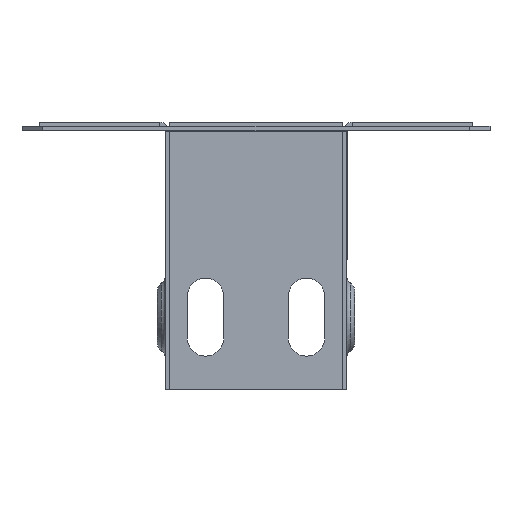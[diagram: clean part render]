
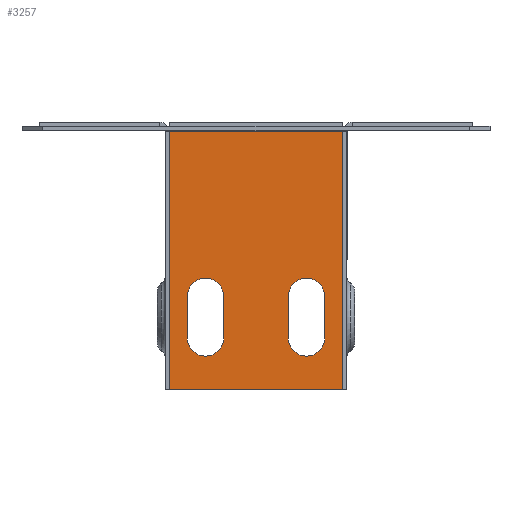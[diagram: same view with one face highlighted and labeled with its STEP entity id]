
A CAD part, left-side view. The second image highlights one B-rep face of the part: STEP entity #3257.
In plain terms, the highlighted planar face has unit normal (-1, 0, 0) as drawn and (0, 1, 0) by its records, which use the part's own axes.
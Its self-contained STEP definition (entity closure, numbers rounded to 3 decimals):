
#147 = CARTESIAN_POINT ( 'NONE',  ( -9.7, 0.8, 41.5 ) ) ;
#194 = VERTEX_POINT ( 'NONE', #2680 ) ;
#339 = CARTESIAN_POINT ( 'NONE',  ( -6.2, 0.8, 41.5 ) ) ;
#392 = CARTESIAN_POINT ( 'NONE',  ( 9.7, 0.8, 45. ) ) ;
#405 = CARTESIAN_POINT ( 'NONE',  ( 16.7, 0.8, 51.5 ) ) ;
#434 = CIRCLE ( 'NONE', #1441, 3.5 ) ;
#512 = CIRCLE ( 'NONE', #1947, 3.5 ) ;
#526 = AXIS2_PLACEMENT_3D ( 'NONE', #3156, #3151, #3136 ) ;
#587 = EDGE_CURVE ( 'NONE', #3053, #1609, #2117, .T. ) ;
#646 = DIRECTION ( 'NONE',  ( -1., 0., 0. ) ) ;
#656 = DIRECTION ( 'NONE',  ( 0., 0., 1. ) ) ;
#664 = DIRECTION ( 'NONE',  ( 0., -1., 0. ) ) ;
#685 = DIRECTION ( 'NONE',  ( 0., 0., -1. ) ) ;
#814 = DIRECTION ( 'NONE',  ( 0., 0., 1. ) ) ;
#850 = DIRECTION ( 'NONE',  ( 0., 0., 1. ) ) ;
#919 = LINE ( 'NONE', #2480, #2260 ) ;
#1051 = CARTESIAN_POINT ( 'NONE',  ( -6.2, 0.8, 33.5 ) ) ;
#1096 = DIRECTION ( 'NONE',  ( 0., 0., 1. ) ) ;
#1110 = CARTESIAN_POINT ( 'NONE',  ( -6.2, 0.8, 41.5 ) ) ;
#1197 = EDGE_CURVE ( 'NONE', #2350, #4845, #1642, .T. ) ;
#1205 = LINE ( 'NONE', #3313, #2382 ) ;
#1277 = EDGE_CURVE ( 'NONE', #5130, #1554, #4907, .T. ) ;
#1301 = CARTESIAN_POINT ( 'NONE',  ( 16.7, 0.8, 1.8 ) ) ;
#1307 = AXIS2_PLACEMENT_3D ( 'NONE', #4884, #1988, #5362 ) ;
#1373 = DIRECTION ( 'NONE',  ( 0., 0., 1. ) ) ;
#1437 = LINE ( 'NONE', #4901, #4057 ) ;
#1441 = AXIS2_PLACEMENT_3D ( 'NONE', #147, #3617, #656 ) ;
#1497 = DIRECTION ( 'NONE',  ( 0., 1., 0. ) ) ;
#1552 = CARTESIAN_POINT ( 'NONE',  ( 9.7, 0.8, 41.5 ) ) ;
#1554 = VERTEX_POINT ( 'NONE', #2160 ) ;
#1586 = CARTESIAN_POINT ( 'NONE',  ( -16.7, 0.8, 0. ) ) ;
#1588 = CARTESIAN_POINT ( 'NONE',  ( -9.7, 0.8, 41.5 ) ) ;
#1593 = EDGE_CURVE ( 'NONE', #4845, #5147, #919, .T. ) ;
#1609 = VERTEX_POINT ( 'NONE', #2439 ) ;
#1642 = CIRCLE ( 'NONE', #3647, 3.5 ) ;
#1669 = DIRECTION ( 'NONE',  ( 0., 0., 1. ) ) ;
#1688 = CARTESIAN_POINT ( 'NONE',  ( 16.7, 0.8, 51.5 ) ) ;
#1699 = DIRECTION ( 'NONE',  ( 0., -1., 0. ) ) ;
#1765 = FACE_BOUND ( 'NONE', #4927, .T. ) ;
#1775 = CARTESIAN_POINT ( 'NONE',  ( -9.7, 0.8, 45. ) ) ;
#1947 = AXIS2_PLACEMENT_3D ( 'NONE', #2213, #2083, #2038 ) ;
#1988 = DIRECTION ( 'NONE',  ( 0., -1., 0. ) ) ;
#2038 = DIRECTION ( 'NONE',  ( 0., 0., 1. ) ) ;
#2070 = AXIS2_PLACEMENT_3D ( 'NONE', #4715, #664, #685 ) ;
#2073 = FACE_BOUND ( 'NONE', #4968, .T. ) ;
#2083 = DIRECTION ( 'NONE',  ( 0., 1., 0. ) ) ;
#2117 = LINE ( 'NONE', #405, #4563 ) ;
#2160 = CARTESIAN_POINT ( 'NONE',  ( 13.2, 0.8, 33.5 ) ) ;
#2213 = CARTESIAN_POINT ( 'NONE',  ( 9.7, 0.8, 41.5 ) ) ;
#2252 = VECTOR ( 'NONE', #646, 1000. ) ;
#2260 = VECTOR ( 'NONE', #2429, 1000. ) ;
#2280 = AXIS2_PLACEMENT_3D ( 'NONE', #1552, #1497, #1096 ) ;
#2315 = VERTEX_POINT ( 'NONE', #1051 ) ;
#2331 = EDGE_CURVE ( 'NONE', #2315, #5427, #3669, .T. ) ;
#2350 = VERTEX_POINT ( 'NONE', #1775 ) ;
#2382 = VECTOR ( 'NONE', #850, 1000. ) ;
#2395 = CARTESIAN_POINT ( 'NONE',  ( 16.7, 0.8, 1.8 ) ) ;
#2429 = DIRECTION ( 'NONE',  ( 0., 0., -1. ) ) ;
#2434 = PLANE ( 'NONE',  #2070 ) ;
#2439 = CARTESIAN_POINT ( 'NONE',  ( -16.7, 0.8, 51.5 ) ) ;
#2441 = EDGE_LOOP ( 'NONE', ( #5263, #5114, #4987, #4980 ) ) ;
#2480 = CARTESIAN_POINT ( 'NONE',  ( -13.2, 0.8, 41.5 ) ) ;
#2499 = VECTOR ( 'NONE', #6114, 1000. ) ;
#2515 = EDGE_CURVE ( 'NONE', #4161, #2957, #1437, .T. ) ;
#2541 = VECTOR ( 'NONE', #814, 1000. ) ;
#2673 = CARTESIAN_POINT ( 'NONE',  ( 6.2, 0.8, 41.5 ) ) ;
#2680 = CARTESIAN_POINT ( 'NONE',  ( -16.7, 0.8, 1.8 ) ) ;
#2722 = CIRCLE ( 'NONE', #2280, 3.5 ) ;
#2934 = EDGE_CURVE ( 'NONE', #1554, #4161, #3367, .T. ) ;
#2957 = VERTEX_POINT ( 'NONE', #2673 ) ;
#3005 = LINE ( 'NONE', #1586, #5244 ) ;
#3053 = VERTEX_POINT ( 'NONE', #1688 ) ;
#3071 = FACE_OUTER_BOUND ( 'NONE', #2441, .T. ) ;
#3080 = EDGE_CURVE ( 'NONE', #194, #1609, #3005, .T. ) ;
#3136 = DIRECTION ( 'NONE',  ( 0., 0., 1. ) ) ;
#3151 = DIRECTION ( 'NONE',  ( 0., 1., 0. ) ) ;
#3156 = CARTESIAN_POINT ( 'NONE',  ( 9.7, 0.8, 33.5 ) ) ;
#3257 = ADVANCED_FACE ( 'NONE', ( #3071, #1765, #2073 ), #2434, .F. ) ;
#3313 = CARTESIAN_POINT ( 'NONE',  ( 16.7, 0.8, 0. ) ) ;
#3367 = CIRCLE ( 'NONE', #526, 3.5 ) ;
#3398 = VERTEX_POINT ( 'NONE', #392 ) ;
#3453 = CARTESIAN_POINT ( 'NONE',  ( -13.2, 0.8, 41.5 ) ) ;
#3519 = EDGE_CURVE ( 'NONE', #3398, #5130, #512, .T. ) ;
#3587 = DIRECTION ( 'NONE',  ( -1., 0., 0. ) ) ;
#3605 = EDGE_CURVE ( 'NONE', #2957, #3398, #2722, .T. ) ;
#3617 = DIRECTION ( 'NONE',  ( 0., -1., 0. ) ) ;
#3632 = CARTESIAN_POINT ( 'NONE',  ( -13.2, 0.8, 33.5 ) ) ;
#3647 = AXIS2_PLACEMENT_3D ( 'NONE', #1588, #1699, #1669 ) ;
#3669 = LINE ( 'NONE', #1110, #2541 ) ;
#3682 = EDGE_CURVE ( 'NONE', #5496, #194, #6050, .T. ) ;
#4057 = VECTOR ( 'NONE', #4472, 1000. ) ;
#4161 = VERTEX_POINT ( 'NONE', #4851 ) ;
#4472 = DIRECTION ( 'NONE',  ( 0., 0., 1. ) ) ;
#4542 = ORIENTED_EDGE ( 'NONE', *, *, #2331, .T. ) ;
#4548 = ORIENTED_EDGE ( 'NONE', *, *, #5631, .T. ) ;
#4563 = VECTOR ( 'NONE', #3587, 1000. ) ;
#4622 = ORIENTED_EDGE ( 'NONE', *, *, #1593, .T. ) ;
#4684 = ORIENTED_EDGE ( 'NONE', *, *, #1197, .T. ) ;
#4685 = ORIENTED_EDGE ( 'NONE', *, *, #5089, .T. ) ;
#4715 = CARTESIAN_POINT ( 'NONE',  ( 16.7, 0.8, 0. ) ) ;
#4752 = ORIENTED_EDGE ( 'NONE', *, *, #2934, .F. ) ;
#4821 = ORIENTED_EDGE ( 'NONE', *, *, #2515, .F. ) ;
#4822 = ORIENTED_EDGE ( 'NONE', *, *, #3605, .F. ) ;
#4845 = VERTEX_POINT ( 'NONE', #3453 ) ;
#4851 = CARTESIAN_POINT ( 'NONE',  ( 6.2, 0.8, 33.5 ) ) ;
#4884 = CARTESIAN_POINT ( 'NONE',  ( -9.7, 0.8, 33.5 ) ) ;
#4897 = ORIENTED_EDGE ( 'NONE', *, *, #3519, .F. ) ;
#4901 = CARTESIAN_POINT ( 'NONE',  ( 6.2, 0.8, 41.5 ) ) ;
#4907 = LINE ( 'NONE', #6129, #2499 ) ;
#4909 = ORIENTED_EDGE ( 'NONE', *, *, #1277, .F. ) ;
#4927 = EDGE_LOOP ( 'NONE', ( #4909, #4897, #4822, #4821, #4752 ) ) ;
#4968 = EDGE_LOOP ( 'NONE', ( #4685, #4684, #4622, #4548, #4542 ) ) ;
#4980 = ORIENTED_EDGE ( 'NONE', *, *, #3682, .T. ) ;
#4987 = ORIENTED_EDGE ( 'NONE', *, *, #5399, .F. ) ;
#5056 = CARTESIAN_POINT ( 'NONE',  ( 13.2, 0.8, 41.5 ) ) ;
#5089 = EDGE_CURVE ( 'NONE', #5427, #2350, #434, .T. ) ;
#5114 = ORIENTED_EDGE ( 'NONE', *, *, #587, .F. ) ;
#5130 = VERTEX_POINT ( 'NONE', #5056 ) ;
#5147 = VERTEX_POINT ( 'NONE', #3632 ) ;
#5244 = VECTOR ( 'NONE', #1373, 1000. ) ;
#5263 = ORIENTED_EDGE ( 'NONE', *, *, #3080, .T. ) ;
#5317 = CIRCLE ( 'NONE', #1307, 3.5 ) ;
#5362 = DIRECTION ( 'NONE',  ( 0., 0., 1. ) ) ;
#5399 = EDGE_CURVE ( 'NONE', #5496, #3053, #1205, .T. ) ;
#5427 = VERTEX_POINT ( 'NONE', #339 ) ;
#5496 = VERTEX_POINT ( 'NONE', #2395 ) ;
#5631 = EDGE_CURVE ( 'NONE', #5147, #2315, #5317, .T. ) ;
#6050 = LINE ( 'NONE', #1301, #2252 ) ;
#6114 = DIRECTION ( 'NONE',  ( 0., 0., -1. ) ) ;
#6129 = CARTESIAN_POINT ( 'NONE',  ( 13.2, 0.8, 41.5 ) ) ;
